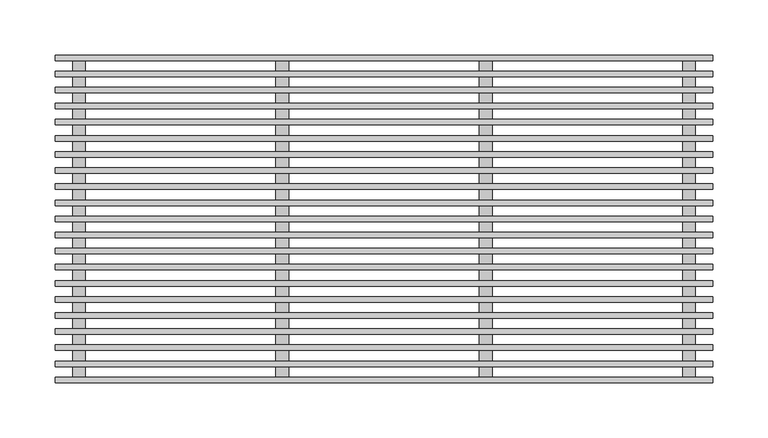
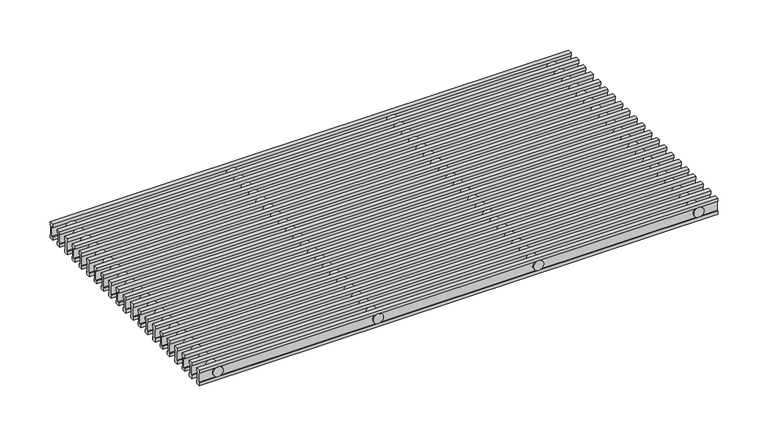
"""IFC4 building model written with IfcOpenShell, lengths in millimetres: proxy geometry, ♦ : РАП_Алюминиевая продольная/ Белый RAL 9016."""

from ifc_helpers import new_model, si_unit, point, frame, frame_2d, origin, place, context, project, spatial, polyline, circle_curve, trimmed, segment, composite_curve, outline, extrude, source, transform, mapped, element, save


def mechanical_equipment_14a43337(model_context):
    return source(origin(), model_context, "Body", "SweptSolid", [
        extrude(outline(polyline([(-129.17, 0.0), (-129.17, -3.86), (-130.42, -3.86), (-130.42, -15.44), (-129.17, -15.44), (-129.17, -19.3), (-134.17, -19.3), (-134.17, -15.44), (-132.92, -15.44), (-132.92, -3.86), (-134.17, -3.86), (-134.17, 0.0), (-129.17, 0.0)])), frame((1.2, 0.0, 0.0), z_axis=(1.0, 0.0, 0.0), x_axis=(0.0, 1.0, 0.0)), (0.0, 0.0, 1.0), 597.6),
        extrude(outline(polyline([(-114.54, 0.0), (-114.54, -3.86), (-115.79, -3.86), (-115.79, -15.44), (-114.54, -15.44), (-114.54, -19.3), (-119.54, -19.3), (-119.54, -15.44), (-118.29, -15.44), (-118.29, -3.86), (-119.54, -3.86), (-119.54, 0.0), (-114.54, 0.0)])), frame((1.2, 0.0, 0.0), z_axis=(1.0, 0.0, 0.0), x_axis=(0.0, 1.0, 0.0)), (0.0, 0.0, 1.0), 597.6),
        extrude(outline(polyline([(-99.91, 0.0), (-99.91, -3.86), (-101.16, -3.86), (-101.16, -15.44), (-99.91, -15.44), (-99.91, -19.3), (-104.91, -19.3), (-104.91, -15.44), (-103.66, -15.44), (-103.66, -3.86), (-104.91, -3.86), (-104.91, 0.0), (-99.91, 0.0)])), frame((1.2, 0.0, 0.0), z_axis=(1.0, 0.0, 0.0), x_axis=(0.0, 1.0, 0.0)), (0.0, 0.0, 1.0), 597.6),
        extrude(outline(polyline([(-85.28, 0.0), (-85.28, -3.86), (-86.53, -3.86), (-86.53, -15.44), (-85.28, -15.44), (-85.28, -19.3), (-90.28, -19.3), (-90.28, -15.44), (-89.03, -15.44), (-89.03, -3.86), (-90.28, -3.86), (-90.28, 0.0), (-85.28, 0.0)])), frame((1.2, 0.0, 0.0), z_axis=(1.0, 0.0, 0.0), x_axis=(0.0, 1.0, 0.0)), (0.0, 0.0, 1.0), 597.6),
        extrude(outline(polyline([(-70.65, 0.0), (-70.65, -3.86), (-71.9, -3.86), (-71.9, -15.44), (-70.65, -15.44), (-70.65, -19.3), (-75.65, -19.3), (-75.65, -15.44), (-74.4, -15.44), (-74.4, -3.86), (-75.65, -3.86), (-75.65, 0.0), (-70.65, 0.0)])), frame((1.2, 0.0, 0.0), z_axis=(1.0, 0.0, 0.0), x_axis=(0.0, 1.0, 0.0)), (0.0, 0.0, 1.0), 597.6),
        extrude(outline(polyline([(-56.02, 0.0), (-56.02, -3.86), (-57.27, -3.86), (-57.27, -15.44), (-56.02, -15.44), (-56.02, -19.3), (-61.02, -19.3), (-61.02, -15.44), (-59.77, -15.44), (-59.77, -3.86), (-61.02, -3.86), (-61.02, 0.0), (-56.02, 0.0)])), frame((1.2, 0.0, 0.0), z_axis=(1.0, 0.0, 0.0), x_axis=(0.0, 1.0, 0.0)), (0.0, 0.0, 1.0), 597.6),
        extrude(outline(polyline([(-41.39, 0.0), (-41.39, -3.86), (-42.64, -3.86), (-42.64, -15.44), (-41.39, -15.44), (-41.39, -19.3), (-46.39, -19.3), (-46.39, -15.44), (-45.14, -15.44), (-45.14, -3.86), (-46.39, -3.86), (-46.39, 0.0), (-41.39, 0.0)])), frame((1.2, 0.0, 0.0), z_axis=(1.0, 0.0, 0.0), x_axis=(0.0, 1.0, 0.0)), (0.0, 0.0, 1.0), 597.6),
        extrude(outline(polyline([(-26.76, 0.0), (-26.76, -3.86), (-28.01, -3.86), (-28.01, -15.44), (-26.76, -15.44), (-26.76, -19.3), (-31.76, -19.3), (-31.76, -15.44), (-30.51, -15.44), (-30.51, -3.86), (-31.76, -3.86), (-31.76, 0.0), (-26.76, 0.0)])), frame((1.2, 0.0, 0.0), z_axis=(1.0, 0.0, 0.0), x_axis=(0.0, 1.0, 0.0)), (0.0, 0.0, 1.0), 597.6),
        extrude(outline(polyline([(-12.13, 0.0), (-12.13, -3.86), (-13.38, -3.86), (-13.38, -15.44), (-12.13, -15.44), (-12.13, -19.3), (-17.13, -19.3), (-17.13, -15.44), (-15.88, -15.44), (-15.88, -3.86), (-17.13, -3.86), (-17.13, 0.0), (-12.13, 0.0)])), frame((1.2, 0.0, 0.0), z_axis=(1.0, 0.0, 0.0), x_axis=(0.0, 1.0, 0.0)), (0.0, 0.0, 1.0), 597.6),
        extrude(outline(polyline([(2.5, 0.0), (2.5, -3.86), (1.25, -3.86), (1.25, -15.44), (2.5, -15.44), (2.5, -19.3), (-2.5, -19.3), (-2.5, -15.44), (-1.25, -15.44), (-1.25, -3.86), (-2.5, -3.86), (-2.5, 0.0), (2.5, 0.0)])), frame((1.2, 0.0, 0.0), z_axis=(1.0, 0.0, 0.0), x_axis=(0.0, 1.0, 0.0)), (0.0, 0.0, 1.0), 597.6),
        extrude(outline(polyline([(17.13, 0.0), (17.13, -3.86), (15.88, -3.86), (15.88, -15.44), (17.13, -15.44), (17.13, -19.3), (12.13, -19.3), (12.13, -15.44), (13.38, -15.44), (13.38, -3.86), (12.13, -3.86), (12.13, 0.0), (17.13, 0.0)])), frame((1.2, 0.0, 0.0), z_axis=(1.0, 0.0, 0.0), x_axis=(0.0, 1.0, 0.0)), (0.0, 0.0, 1.0), 597.6),
        extrude(outline(polyline([(31.76, 0.0), (31.76, -3.86), (30.51, -3.86), (30.51, -15.44), (31.76, -15.44), (31.76, -19.3), (26.76, -19.3), (26.76, -15.44), (28.01, -15.44), (28.01, -3.86), (26.76, -3.86), (26.76, 0.0), (31.76, 0.0)])), frame((1.2, 0.0, 0.0), z_axis=(1.0, 0.0, 0.0), x_axis=(0.0, 1.0, 0.0)), (0.0, 0.0, 1.0), 597.6),
        extrude(outline(polyline([(46.39, 0.0), (46.39, -3.86), (45.14, -3.86), (45.14, -15.44), (46.39, -15.44), (46.39, -19.3), (41.39, -19.3), (41.39, -15.44), (42.64, -15.44), (42.64, -3.86), (41.39, -3.86), (41.39, 0.0), (46.39, 0.0)])), frame((1.2, 0.0, 0.0), z_axis=(1.0, 0.0, 0.0), x_axis=(0.0, 1.0, 0.0)), (0.0, 0.0, 1.0), 597.6),
        extrude(outline(composite_curve([segment(trimmed(circle_curve(frame_2d((-9.6, 392.3333333)), 5.8), [point((-9.6, 386.5333333))], [point((-9.6, 398.1333333))], False, "CARTESIAN"), True, "CONTINUOUS"), segment(trimmed(circle_curve(frame_2d((-9.6, 392.3333333)), 5.8), [point((-9.6, 398.1333333))], [point((-9.6, 386.5333333))], False, "CARTESIAN"), True, "CONTINUOUS")], self_intersect=False)), frame((0.0, -148.8, 0.0), z_axis=(0.0, 1.0, 0.0), x_axis=(0.0, 0.0, 1.0)), (0.0, 0.0, 1.0), 297.6),
        extrude(outline(composite_curve([segment(trimmed(circle_curve(frame_2d((-9.6, 207.6666667)), 5.8), [point((-9.6, 201.8666667))], [point((-9.6, 213.4666667))], False, "CARTESIAN"), True, "CONTINUOUS"), segment(trimmed(circle_curve(frame_2d((-9.6, 207.6666667)), 5.8), [point((-9.6, 213.4666667))], [point((-9.6, 201.8666667))], False, "CARTESIAN"), True, "CONTINUOUS")], self_intersect=False)), frame((0.0, -148.8, 0.0), z_axis=(0.0, 1.0, 0.0), x_axis=(0.0, 0.0, 1.0)), (0.0, 0.0, 1.0), 297.6),
        extrude(outline(composite_curve([segment(trimmed(circle_curve(frame_2d((-9.6, 577.0)), 5.8), [point((-9.6, 571.2))], [point((-9.6, 582.8))], False, "CARTESIAN"), True, "CONTINUOUS"), segment(trimmed(circle_curve(frame_2d((-9.6, 577.0)), 5.8), [point((-9.6, 582.8))], [point((-9.6, 571.2))], False, "CARTESIAN"), True, "CONTINUOUS")], self_intersect=False)), frame((0.0, -148.8, 0.0), z_axis=(0.0, 1.0, 0.0), x_axis=(0.0, 0.0, 1.0)), (0.0, 0.0, 1.0), 297.6),
        extrude(outline(composite_curve([segment(trimmed(circle_curve(frame_2d((-9.6, 23.0)), 5.8), [point((-9.6, 17.2))], [point((-9.6, 28.8))], False, "CARTESIAN"), True, "CONTINUOUS"), segment(trimmed(circle_curve(frame_2d((-9.6, 23.0)), 5.8), [point((-9.6, 28.8))], [point((-9.6, 17.2))], False, "CARTESIAN"), True, "CONTINUOUS")], self_intersect=False)), frame((0.0, -148.8, 0.0), z_axis=(0.0, 1.0, 0.0), x_axis=(0.0, 0.0, 1.0)), (0.0, 0.0, 1.0), 297.6),
        extrude(outline(polyline([(61.02, 0.0), (61.02, -3.86), (59.77, -3.86), (59.77, -15.44), (61.02, -15.44), (61.02, -19.3), (56.02, -19.3), (56.02, -15.44), (57.27, -15.44), (57.27, -3.86), (56.02, -3.86), (56.02, 0.0), (61.02, 0.0)])), frame((1.2, 0.0, 0.0), z_axis=(1.0, 0.0, 0.0), x_axis=(0.0, 1.0, 0.0)), (0.0, 0.0, 1.0), 597.6),
        extrude(outline(polyline([(75.65, 0.0), (75.65, -3.86), (74.4, -3.86), (74.4, -15.44), (75.65, -15.44), (75.65, -19.3), (70.65, -19.3), (70.65, -15.44), (71.9, -15.44), (71.9, -3.86), (70.65, -3.86), (70.65, 0.0), (75.65, 0.0)])), frame((1.2, 0.0, 0.0), z_axis=(1.0, 0.0, 0.0), x_axis=(0.0, 1.0, 0.0)), (0.0, 0.0, 1.0), 597.6),
        extrude(outline(polyline([(90.28, 0.0), (90.28, -3.86), (89.03, -3.86), (89.03, -15.44), (90.28, -15.44), (90.28, -19.3), (85.28, -19.3), (85.28, -15.44), (86.53, -15.44), (86.53, -3.86), (85.28, -3.86), (85.28, 0.0), (90.28, 0.0)])), frame((1.2, 0.0, 0.0), z_axis=(1.0, 0.0, 0.0), x_axis=(0.0, 1.0, 0.0)), (0.0, 0.0, 1.0), 597.6),
        extrude(outline(polyline([(104.91, 0.0), (104.91, -3.86), (103.66, -3.86), (103.66, -15.44), (104.91, -15.44), (104.91, -19.3), (99.91, -19.3), (99.91, -15.44), (101.16, -15.44), (101.16, -3.86), (99.91, -3.86), (99.91, 0.0), (104.91, 0.0)])), frame((1.2, 0.0, 0.0), z_axis=(1.0, 0.0, 0.0), x_axis=(0.0, 1.0, 0.0)), (0.0, 0.0, 1.0), 597.6),
        extrude(outline(polyline([(119.54, 0.0), (119.54, -3.86), (118.29, -3.86), (118.29, -15.44), (119.54, -15.44), (119.54, -19.3), (114.54, -19.3), (114.54, -15.44), (115.79, -15.44), (115.79, -3.86), (114.54, -3.86), (114.54, 0.0), (119.54, 0.0)])), frame((1.2, 0.0, 0.0), z_axis=(1.0, 0.0, 0.0), x_axis=(0.0, 1.0, 0.0)), (0.0, 0.0, 1.0), 597.6),
        extrude(outline(polyline([(134.17, 0.0), (134.17, -3.86), (132.92, -3.86), (132.92, -15.44), (134.17, -15.44), (134.17, -19.3), (129.17, -19.3), (129.17, -15.44), (130.42, -15.44), (130.42, -3.86), (129.17, -3.86), (129.17, 0.0), (134.17, 0.0)])), frame((1.2, 0.0, 0.0), z_axis=(1.0, 0.0, 0.0), x_axis=(0.0, 1.0, 0.0)), (0.0, 0.0, 1.0), 597.6),
        extrude(outline(polyline([(-143.8, 0.0), (-143.8, -3.86), (-145.05, -3.86), (-145.05, -15.44), (-143.8, -15.44), (-143.8, -19.3), (-148.8, -19.3), (-148.8, -15.44), (-147.55, -15.44), (-147.55, -3.86), (-148.8, -3.86), (-148.8, 0.0), (-143.8, 0.0)])), frame((1.2, 0.0, 0.0), z_axis=(1.0, 0.0, 0.0), x_axis=(0.0, 1.0, 0.0)), (0.0, 0.0, 1.0), 597.6),
        extrude(outline(polyline([(148.8, 0.0), (148.8, -3.86), (147.55, -3.86), (147.55, -15.44), (148.8, -15.44), (148.8, -19.3), (143.8, -19.3), (143.8, -15.44), (145.05, -15.44), (145.05, -3.86), (143.8, -3.86), (143.8, 0.0), (148.8, 0.0)])), frame((1.2, 0.0, 0.0), z_axis=(1.0, 0.0, 0.0), x_axis=(0.0, 1.0, 0.0)), (0.0, 0.0, 1.0), 597.6),
    ])


if __name__ == "__main__":
    model = new_model("IFC4")
    model_context = context("Model", 3, world=origin())
    ifc_project = project(units=[si_unit("LENGTHUNIT", "METRE", prefix="MILLI")], contexts=[model_context])
    site = spatial("IfcSite", under=ifc_project)
    building = spatial("IfcBuilding", under=site)
    placement = place(None, origin())
    mechanical_equipment_shape = mechanical_equipment_14a43337(model_context)
    element("IfcBuildingElementProxy", 1, Name="♦ : РАП_Алюминиевая продольная/ Белый RAL 9016", ObjectType="♦ : РАП_Алюминиевая продольная/ Белый RAL 9016", at=placement, inside=building, context=model_context, shape_type="MappedRepresentation", body=[
        mapped(mechanical_equipment_shape, transform((0.0, 0.0, 0.0), x_axis=(1.0, 0.0, 0.0), y_axis=(0.0, 1.0, 0.0), z_axis=(0.0, 0.0, 1.0))),
    ])
    save(model, "model.ifc")
